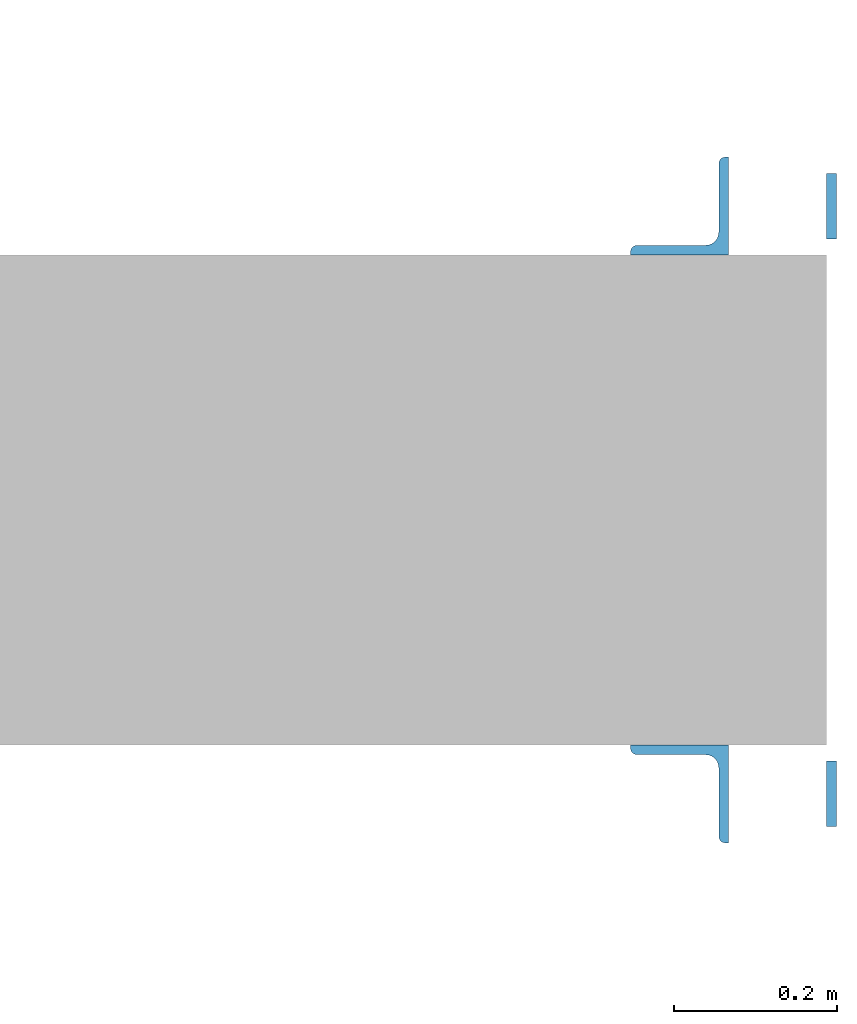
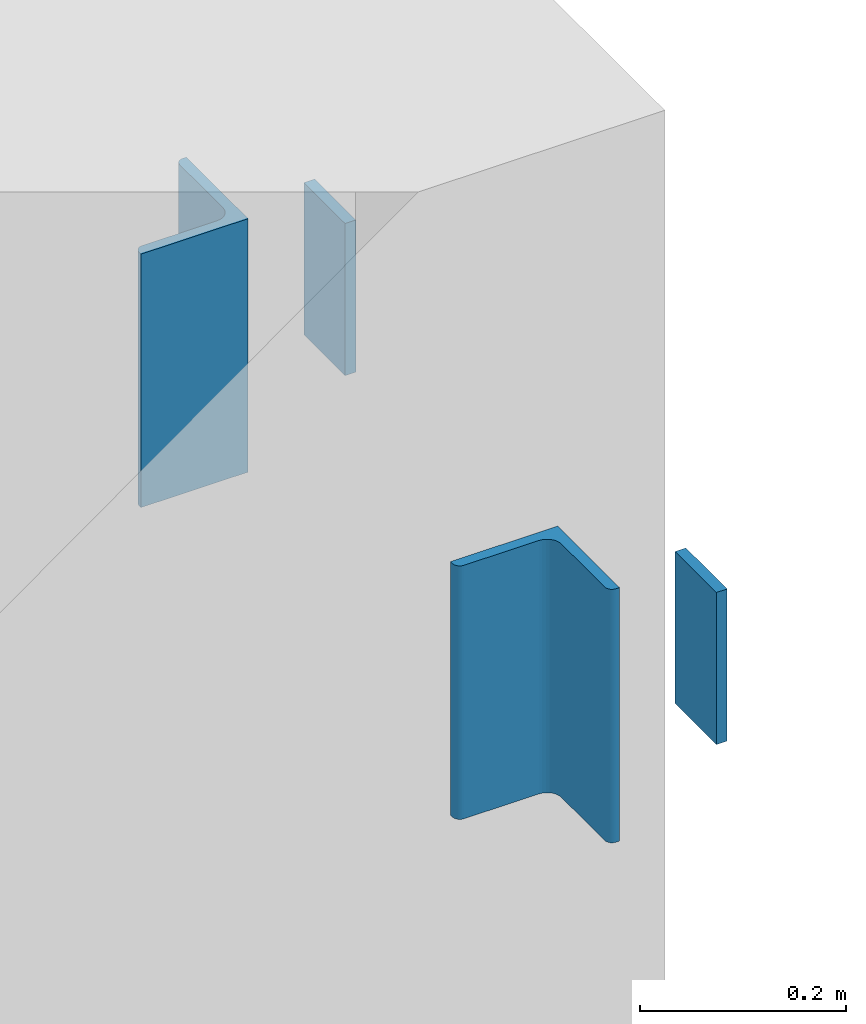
# One storey, part 11 of 22: 4 columns.
"""IFC2X3 building model written with IfcOpenShell, lengths in millimetres."""

import ifcopenshell
import ifcopenshell.guid

model = None  # the IFC model being written
_history = None  # IfcOwnerHistory: only IFC2X3 demands one
_inside = {}  # id of a spatial element -> (the spatial element, [elements in it])
_under = {}  # id of a project, library or spatial element -> (it, [spatial elements below it])
_declared = {}  # id of a project -> (the project, [libraries it declares])
_typed = {}  # id of a type object -> (the type object, [elements of that type])
_made_of = {}  # id of a material, layer set ... -> (it, [elements and type objects made of it])


def new_model(schema):
    """Start an empty IFC model of exactly this schema.

    Asked for "IFC4X3", IfcOpenShell would pick the latest addendum, in which some entities
    have other attributes; the version numbers below select the first issue.
    IFC2X3 requires an IfcOwnerHistory on every rooted entity: one is made here for all.
    """
    global model, _history
    if schema == "IFC4X3":
        model = ifcopenshell.file(schema_version=(4, 3, 0, 0))
    else:
        model = ifcopenshell.file(schema=schema)
    _inside.clear()
    _under.clear()
    _declared.clear()
    _typed.clear()
    _made_of.clear()
    _history = None
    if model.schema == "IFC2X3":
        org = make("IfcOrganization", Name="unknown")
        user = make(
            "IfcPersonAndOrganization",
            ThePerson=make("IfcPerson", FamilyName="unknown"),
            TheOrganization=org,
        )
        app = make(
            "IfcApplication",
            ApplicationDeveloper=org,
            Version="unknown",
            ApplicationFullName="unknown",
            ApplicationIdentifier="unknown",
        )
        _history = make(
            "IfcOwnerHistory",
            OwningUser=user,
            OwningApplication=app,
            ChangeAction="ADDED",
            CreationDate=0,
        )
    return model


def make(cls, **values):
    """One entity of the class cls with the attributes given. An attribute that is None is left unset."""
    return model.create_entity(
        cls, **{name: value for name, value in values.items() if value is not None}
    )


def entity(cls, *values):
    """Any entity or typed value of the class cls, its attributes in the order of the schema. None: left unset."""
    e = model.create_entity(cls)
    for i, value in enumerate(values):
        if value is not None:
            e[i] = value
    return e


def rooted(cls, **values):
    """An entity with a GlobalId (a new one), such as an element, a storey or a relation."""
    return make(cls, GlobalId=ifcopenshell.guid.new(), OwnerHistory=_history, **values)


def si_unit(unit_type, name, prefix=None):
    """IfcSIUnit, for example si_unit("LENGTHUNIT", "METRE", prefix="MILLI")."""
    return make("IfcSIUnit", UnitType=unit_type, Prefix=prefix, Name=name)


def converted_unit(unit_type, name, factor, base, dimensions=None, offset=None):
    """IfcConversionBasedUnit, such as the inch: factor (a typed value) times the base unit."""
    return make(
        "IfcConversionBasedUnit"
        if offset is None
        else "IfcConversionBasedUnitWithOffset",
        ConversionOffset=offset,
        Dimensions=None
        if dimensions is None
        else entity("IfcDimensionalExponents", *dimensions),
        UnitType=unit_type,
        Name=name,
        ConversionFactor=make(
            "IfcMeasureWithUnit", ValueComponent=factor, UnitComponent=base
        ),
    )


def derived_unit(unit_type, elements):
    """IfcDerivedUnit: a product of units, each with its exponent."""
    return make(
        "IfcDerivedUnit",
        Elements=[
            make("IfcDerivedUnitElement", Unit=unit, Exponent=power)
            for unit, power in elements
        ],
        UnitType=unit_type,
    )


def assignment(units):
    """IfcUnitAssignment: the units of a project."""
    return None if units is None else make("IfcUnitAssignment", Units=units)


def point(xyz):
    """IfcCartesianPoint."""
    return None if xyz is None else make("IfcCartesianPoint", Coordinates=xyz)


def direction(xyz):
    """IfcDirection."""
    return None if xyz is None else make("IfcDirection", DirectionRatios=xyz)


def frame(location, z_axis=None, x_axis=None):
    """IfcAxis2Placement3D, a coordinate frame: its origin and axes. An axis left out is left unset."""
    return make(
        "IfcAxis2Placement3D",
        Location=point(location),
        Axis=direction(z_axis),
        RefDirection=direction(x_axis),
    )


def frame_2d(location, x_axis=None):
    """IfcAxis2Placement2D, a coordinate frame in the plane: its origin and x axis."""
    return make(
        "IfcAxis2Placement2D", Location=point(location), RefDirection=direction(x_axis)
    )


def origin():
    """The frame at (0, 0, 0) with its axes left unset."""
    return frame((0.0, 0.0, 0.0))


def place(relative_to, where):
    """IfcLocalPlacement: puts the frame where relative to a parent placement (None: the world)."""
    return make(
        "IfcLocalPlacement", PlacementRelTo=relative_to, RelativePlacement=where
    )


def context(
    kind, dimensions, precision=None, world=None, true_north=None, identifier=None
):
    """IfcGeometricRepresentationContext, for example the 3D "Model" context."""
    return make(
        "IfcGeometricRepresentationContext",
        ContextIdentifier=identifier,
        ContextType=kind,
        CoordinateSpaceDimension=dimensions,
        Precision=precision,
        WorldCoordinateSystem=world,
        TrueNorth=true_north,
    )


def subcontext(parent, identifier, kind, view, scale=None):
    """IfcGeometricRepresentationSubContext, for example "Body" below "Model"."""
    return make(
        "IfcGeometricRepresentationSubContext",
        ContextIdentifier=identifier,
        ContextType=kind,
        ParentContext=parent,
        TargetScale=scale,
        TargetView=view,
    )


def project(units=None, contexts=None):
    """IfcProject with its units and contexts."""
    return rooted(
        "IfcProject",
        Name="project",
        RepresentationContexts=contexts,
        UnitsInContext=assignment(units),
    )


def spatial(cls, under=None, at=None, **own):
    """A site, building, storey or space (cls), placed at a placement, below another one or the project."""
    s = rooted(cls, ObjectPlacement=at, **own)
    if under is not None:
        _under.setdefault(under.id(), (under, []))[1].append(s)
    return s


def polyline(points):
    """IfcPolyline through the points."""
    return make("IfcPolyline", Points=[point(p) for p in points])


def circle_curve(where, radius):
    """IfcCircle in the frame where."""
    return make("IfcCircle", Position=where, Radius=radius)


def parameter(value):
    """IfcParameterValue: where a trimmed curve begins or ends, as a parameter of its basis curve."""
    return model.create_entity("IfcParameterValue", value)


def trimmed(basis, trim1, trim2, sense, master):
    """IfcTrimmedCurve: the piece of a basis curve between two trims."""
    return make(
        "IfcTrimmedCurve",
        BasisCurve=basis,
        Trim1=trim1,
        Trim2=trim2,
        SenseAgreement=sense,
        MasterRepresentation=master,
    )


def segment(curve, same_sense, transition):
    """IfcCompositeCurveSegment."""
    return make(
        "IfcCompositeCurveSegment",
        Transition=transition,
        SameSense=same_sense,
        ParentCurve=curve,
    )


def composite_curve(segments, self_intersect=None):
    """IfcCompositeCurve: segments joined end to end."""
    return make("IfcCompositeCurve", Segments=segments, SelfIntersect=self_intersect)


def profile(cls, at=None, kind="AREA", **sizes):
    """A parametric profile (cls). Its sizes go by their IFC names, for example OverallWidth=200.0."""
    return make(cls, ProfileType=kind, Position=at, **sizes)


def rectangle(**sizes):
    """IfcRectangleProfileDef."""
    return profile("IfcRectangleProfileDef", **sizes)


def outline(outer, holes=None, kind="AREA"):
    """IfcArbitraryClosedProfileDef: a profile drawn as a closed curve; with holes, ...WithVoids."""
    if holes is None:
        return make("IfcArbitraryClosedProfileDef", ProfileType=kind, OuterCurve=outer)
    return make(
        "IfcArbitraryProfileDefWithVoids",
        ProfileType=kind,
        OuterCurve=outer,
        InnerCurves=holes,
    )


def extrude(swept, where, along, depth):
    """IfcExtrudedAreaSolid: the profile swept, set in the frame where, extruded along a direction by depth."""
    return make(
        "IfcExtrudedAreaSolid",
        SweptArea=swept,
        Position=where,
        ExtrudedDirection=direction(along),
        Depth=depth,
    )


def shape(context_of_items, identifier, shape_type, items):
    """IfcShapeRepresentation: the items that make up one representation, for example the "Body"."""
    return make(
        "IfcShapeRepresentation",
        ContextOfItems=context_of_items,
        RepresentationIdentifier=identifier,
        RepresentationType=shape_type,
        Items=items,
    )


def source(mapping_origin, context_of_items, identifier, shape_type, items):
    """IfcRepresentationMap: a shape defined once, which mapped items show again and again."""
    return make(
        "IfcRepresentationMap",
        MappingOrigin=mapping_origin,
        MappedRepresentation=shape(context_of_items, identifier, shape_type, items),
    )


def transform(
    local_origin,
    x_axis=None,
    y_axis=None,
    z_axis=None,
    scale=None,
    scale2=None,
    scale3=None,
    uniform=True,
):
    """IfcCartesianTransformationOperator3D, or its non-uniform kind. x_axis, y_axis, z_axis: its Axis1, 2, 3."""
    if uniform:
        return make(
            "IfcCartesianTransformationOperator3D",
            Axis1=direction(x_axis),
            Axis2=direction(y_axis),
            LocalOrigin=point(local_origin),
            Scale=scale,
            Axis3=direction(z_axis),
        )
    return make(
        "IfcCartesianTransformationOperator3DnonUniform",
        Axis1=direction(x_axis),
        Axis2=direction(y_axis),
        LocalOrigin=point(local_origin),
        Scale=scale,
        Axis3=direction(z_axis),
        Scale2=scale2,
        Scale3=scale3,
    )


def mapped(mapping_source, mapping_target):
    """IfcMappedItem: shows the shape of a source again, moved by a transform."""
    return make(
        "IfcMappedItem", MappingSource=mapping_source, MappingTarget=mapping_target
    )


def material(Name=None, Category=None):
    """IfcMaterial."""
    return make("IfcMaterial", Name=Name, Category=Category)


def made_of(thing, what):
    """Note that an element or type object is made of a material, layer set ...; save() writes the relation."""
    if what is not None:
        _made_of.setdefault(what.id(), (what, []))[1].append(thing)
    return thing


def type_object(cls, material=None, **own):
    """A type object (cls), such as IfcWallType, which elements share."""
    return made_of(rooted(cls, **own), material)


def type_shapes(of_type, sources):
    """Give a type object the sources (RepresentationMaps) that its elements show as mapped items."""
    of_type.RepresentationMaps = sources


def element(
    cls,
    number,
    at=None,
    inside=None,
    cuts=None,
    type_object=None,
    material=None,
    context=None,
    identifier="Body",
    shape_type=None,
    held_by="IfcProductDefinitionShape",
    body=None,
    shapes=None,
    **own,
):
    """One element of the class cls, such as IfcWall. Its Tag is "e" and its number.

    at: its placement. inside: the storey or other place that contains it. cuts: it is an
    opening in that element (IfcRelVoidsElement). A single representation is given by context,
    identifier, shape_type and body (its items); several are given by shapes. held_by: the class
    of the entity that holds the representations. save() writes the other relations.
    """
    e = rooted(cls, Tag="e%d" % number, ObjectPlacement=at, **own)
    if body is not None:
        shapes = [shape(context, identifier, shape_type, body)]
    if shapes is not None:
        e.Representation = make(held_by, Representations=shapes)
    if inside is not None:
        _inside.setdefault(inside.id(), (inside, []))[1].append(e)
    if cuts is not None:
        rooted(
            "IfcRelVoidsElement", RelatingBuildingElement=cuts, RelatedOpeningElement=e
        )
    if type_object is not None:
        _typed.setdefault(type_object.id(), (type_object, []))[1].append(e)
    return made_of(e, material)


def aggregate(whole, parts):
    """IfcRelAggregates: a whole, such as a stair, and the parts it consists of."""
    return rooted("IfcRelAggregates", RelatingObject=whole, RelatedObjects=parts)


def save(model, path):
    """Write the relations noted so far, then the file.

    IfcRelAggregates (storeys below a building ...), IfcRelContainedInSpatialStructure (elements
    in a storey), IfcRelDefinesByType, IfcRelAssociatesMaterial and IfcRelDeclares: one each for
    every whole, place, type object, material and project.
    """
    for whole, parts in _under.values():
        aggregate(whole, parts)
    for where, things in _inside.values():
        rooted(
            "IfcRelContainedInSpatialStructure",
            RelatedElements=things,
            RelatingStructure=where,
        )
    for kind, things in _typed.values():
        rooted("IfcRelDefinesByType", RelatedObjects=things, RelatingType=kind)
    for what, things in _made_of.values():
        rooted("IfcRelAssociatesMaterial", RelatedObjects=things, RelatingMaterial=what)
    for by, libraries in _declared.values():
        rooted("IfcRelDeclares", RelatingContext=by, RelatedDefinitions=libraries)
    model.write(path)


model = new_model("IFC2X3")

# Units and contexts
model_context = context("Model", 3, precision=0.01, world=origin(), true_north=direction((6.12303176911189e-17, 1.0)))
body_context = subcontext(model_context, "Body", "Model", "MODEL_VIEW")
ifc_project = project(units=[si_unit("LENGTHUNIT", "METRE", prefix="MILLI"), si_unit("AREAUNIT", "SQUARE_METRE"), si_unit("VOLUMEUNIT", "CUBIC_METRE"), converted_unit("PLANEANGLEUNIT", "DEGREE", entity("IfcRatioMeasure", 0.0174532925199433), si_unit("PLANEANGLEUNIT", "RADIAN"), dimensions=[0, 0, 0, 0, 0, 0, 0]), si_unit("MASSUNIT", "GRAM", prefix="KILO"), derived_unit("MASSDENSITYUNIT", [(si_unit("MASSUNIT", "GRAM", prefix="KILO"), 1), (si_unit("LENGTHUNIT", "METRE"), -3)]), si_unit("TIMEUNIT", "SECOND"), si_unit("FREQUENCYUNIT", "HERTZ"), si_unit("THERMODYNAMICTEMPERATUREUNIT", "DEGREE_CELSIUS"), derived_unit("THERMALTRANSMITTANCEUNIT", [(si_unit("MASSUNIT", "GRAM", prefix="KILO"), 1), (si_unit("THERMODYNAMICTEMPERATUREUNIT", "KELVIN"), -1), (si_unit("TIMEUNIT", "SECOND"), -3)]), derived_unit("VOLUMETRICFLOWRATEUNIT", [(si_unit("LENGTHUNIT", "METRE"), 3), (si_unit("TIMEUNIT", "SECOND"), -1)]), si_unit("ELECTRICCURRENTUNIT", "AMPERE"), si_unit("ELECTRICVOLTAGEUNIT", "VOLT"), si_unit("POWERUNIT", "WATT"), si_unit("FORCEUNIT", "NEWTON", prefix="KILO"), si_unit("ILLUMINANCEUNIT", "LUX"), si_unit("LUMINOUSFLUXUNIT", "LUMEN"), si_unit("LUMINOUSINTENSITYUNIT", "CANDELA"), derived_unit("USERDEFINED", [(si_unit("MASSUNIT", "GRAM", prefix="KILO"), -1), (si_unit("LENGTHUNIT", "METRE"), -2), (si_unit("TIMEUNIT", "SECOND"), 3), (si_unit("LUMINOUSFLUXUNIT", "LUMEN"), 1)]), derived_unit("LINEARVELOCITYUNIT", [(si_unit("LENGTHUNIT", "METRE"), 1), (si_unit("TIMEUNIT", "SECOND"), -1)]), si_unit("PRESSUREUNIT", "PASCAL"), derived_unit("USERDEFINED", [(si_unit("LENGTHUNIT", "METRE"), -2), (si_unit("MASSUNIT", "GRAM", prefix="KILO"), 1), (si_unit("TIMEUNIT", "SECOND"), -2)])], contexts=[model_context])

# Site, building, storey
site_placement = place(None, origin())
site = spatial("IfcSite", under=ifc_project, at=site_placement, Name="Default", CompositionType="ELEMENT")
building_placement = place(site_placement, origin())
building = spatial("IfcBuilding", under=site, at=building_placement, Name="niet gebruiken", CompositionType="ELEMENT")
storey_placement = place(building_placement, frame((0.0, 0.0, 15000.0)))
storey = spatial("IfcBuildingStorey", under=building, at=storey_placement, Name="04 vierde verdieping", CompositionType="ELEMENT", Elevation=15000.0)

# Columns
ifc_material = material(Name="NLRS_h2_staal")
column_type_1 = type_object("IfcColumnType", Name="kolomgelijzijdig hoekprofiel LEQU_120x120x12_!", PredefinedType="COLUMN", material=ifc_material)
shared_shape_1 = source(origin(), body_context, "Body", "SweptSolid", [
    extrude(outline(composite_curve([segment(polyline([(-74.6666666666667, -45.3333333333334), (45.3333333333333, -45.3333333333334)]), True, "CONTINUOUS"), segment(polyline([(45.3333333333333, -45.3333333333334), (45.3333333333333, 74.6666666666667)]), True, "CONTINUOUS"), segment(polyline([(45.3333333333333, 74.6666666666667), (41.3333333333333, 74.6666666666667)]), True, "CONTINUOUS"), segment(trimmed(circle_curve(frame_2d((41.3333333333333, 66.6666666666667), x_axis=(0.0, 1.0)), 8.0), [parameter(0.0)], [parameter(90.0)], True, "PARAMETER"), True, "CONTINUOUS"), segment(polyline([(33.3333333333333, 66.6666666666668), (33.3333333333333, -17.3333333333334)]), True, "CONTINUOUS"), segment(trimmed(circle_curve(frame_2d((17.3333333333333, -17.3333333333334), x_axis=(1.0, 0.0)), 16.0), [parameter(270.0)], [parameter(0.0)], True, "PARAMETER"), False, "CONTINUOUS"), segment(polyline([(17.3333333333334, -33.3333333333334), (-66.6666666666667, -33.3333333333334)]), True, "CONTINUOUS"), segment(trimmed(circle_curve(frame_2d((-66.6666666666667, -41.3333333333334), x_axis=(0.0, 1.0)), 7.99999999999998), [parameter(0.0)], [parameter(90.0000000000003)], True, "PARAMETER"), True, "CONTINUOUS"), segment(polyline([(-74.6666666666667, -41.3333333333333), (-74.6666666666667, -45.3333333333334)]), True, "CONTINUOUS")], self_intersect=False)), frame((32.8333333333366, 32.8333333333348, 16235.0), z_axis=(0.0, 0.0, 1.0), x_axis=(0.0, -1.0, 0.0)), (0.0, 0.0, 1.0), 300.00000000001),
])
type_shapes(column_type_1, [shared_shape_1])
column_1_placement = place(storey_placement, frame((158667.5, 31587.4999999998, -15000.0), z_axis=(0.0, 0.0, 1.0), x_axis=(-1.0, 0.0, 0.0)))
element("IfcColumn", 1, at=column_1_placement, inside=storey, type_object=column_type_1, material=ifc_material, Name="NLRS_28.11_SCO_TLB_stalen kolom hoekprofiel gelijkzijdig_gen:kolomgelijzijdig hoekprofiel LEQU_120x120x12_!", ObjectType="kolomgelijzijdig hoekprofiel LEQU_120x120x12_!", context=body_context, shape_type="MappedRepresentation", body=[
    mapped(shared_shape_1, transform((0.0, 0.0, 0.0), scale=1.0)),
])
column_type_2 = type_object("IfcColumnType", Name="kolomgelijzijdig hoekprofiel LEQU_120x120x12_!", PredefinedType="COLUMN", material=ifc_material)
shared_shape_2 = source(origin(), body_context, "Body", "SweptSolid", [
    extrude(outline(composite_curve([segment(polyline([(-45.3333333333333, -45.3333333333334), (74.6666666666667, -45.3333333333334)]), True, "CONTINUOUS"), segment(polyline([(74.6666666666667, -45.3333333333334), (74.6666666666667, -41.3333333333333)]), True, "CONTINUOUS"), segment(trimmed(circle_curve(frame_2d((66.6666666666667, -41.3333333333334), x_axis=(1.0, 0.0)), 7.99999999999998), [parameter(0.0)], [parameter(90.0000000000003)], True, "PARAMETER"), True, "CONTINUOUS"), segment(polyline([(66.6666666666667, -33.3333333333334), (-17.3333333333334, -33.3333333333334)]), True, "CONTINUOUS"), segment(trimmed(circle_curve(frame_2d((-17.3333333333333, -17.3333333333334), x_axis=(0.0, -1.0)), 16.0), [parameter(270.0)], [parameter(0.0)], True, "PARAMETER"), False, "CONTINUOUS"), segment(polyline([(-33.3333333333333, -17.3333333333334), (-33.3333333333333, 66.6666666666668)]), True, "CONTINUOUS"), segment(trimmed(circle_curve(frame_2d((-41.3333333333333, 66.6666666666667), x_axis=(1.0, 0.0)), 8.0), [parameter(0.0)], [parameter(90.0)], True, "PARAMETER"), True, "CONTINUOUS"), segment(polyline([(-41.3333333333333, 74.6666666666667), (-45.3333333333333, 74.6666666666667)]), True, "CONTINUOUS"), segment(polyline([(-45.3333333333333, 74.6666666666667), (-45.3333333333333, -45.3333333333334)]), True, "CONTINUOUS")], self_intersect=False)), frame((32.8333333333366, -32.8333333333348, 16235.0), z_axis=(0.0, 0.0, 1.0), x_axis=(0.0, -1.0, 0.0)), (0.0, 0.0, 1.0), 300.00000000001),
])
type_shapes(column_type_2, [shared_shape_2])
column_2_placement = place(storey_placement, frame((158667.5, 32212.5, -15000.0), z_axis=(0.0, 0.0, 1.0), x_axis=(-1.0, 0.0, 0.0)))
element("IfcColumn", 2, at=column_2_placement, inside=storey, type_object=column_type_2, material=ifc_material, Name="NLRS_28.11_SCO_TLB_stalen kolom hoekprofiel gelijkzijdig_gen:kolomgelijzijdig hoekprofiel LEQU_120x120x12_!", ObjectType="kolomgelijzijdig hoekprofiel LEQU_120x120x12_!", context=body_context, shape_type="MappedRepresentation", body=[
    mapped(shared_shape_2, transform((0.0, 0.0, 0.0), scale=1.0)),
])
column_type_3 = type_object("IfcColumnType", Name="kolom stripstaal RECT_80x12", PredefinedType="COLUMN", material=ifc_material)
shared_shape_3 = source(origin(), body_context, "Body", "SweptSolid", [
    extrude(rectangle(XDim=79.9999999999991, YDim=11.9999999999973, at=frame_2d((-2.16715534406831e-12, 0.0), x_axis=(1.0, 0.0))), frame((158806.0, 32260.0, 16295.0), z_axis=(0.0, 0.0, 1.0), x_axis=(0.0, -1.0, 0.0)), (0.0, 0.0, 1.0), 180.000000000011),
])
type_shapes(column_type_3, [shared_shape_3])
column_3_placement = place(storey_placement, frame((0.0, 0.0, -15000.0)))
element("IfcColumn", 3, at=column_3_placement, inside=storey, type_object=column_type_3, material=ifc_material, Name="NLRS_28.11_SCO_TLB_stalen kolom stripstaal_gen:kolom stripstaal RECT_80x12", ObjectType="kolom stripstaal RECT_80x12", context=body_context, shape_type="MappedRepresentation", body=[
    mapped(shared_shape_3, transform((0.0, 0.0, 0.0), scale=1.0)),
])
column_type_4 = type_object("IfcColumnType", Name="kolom stripstaal RECT_80x12", PredefinedType="COLUMN", material=ifc_material)
shared_shape_4 = source(origin(), body_context, "Body", "SweptSolid", [
    extrude(rectangle(XDim=80.0000000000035, YDim=12.0000000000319, at=frame_2d((2.16715534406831e-12, 0.0), x_axis=(1.0, 0.0))), frame((158806.0, 31540.0, 16295.0), z_axis=(0.0, 0.0, 1.0), x_axis=(0.0, -1.0, 0.0)), (0.0, 0.0, 1.0), 180.000000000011),
])
type_shapes(column_type_4, [shared_shape_4])
column_4_placement = place(storey_placement, frame((0.0, 0.0, -15000.0)))
element("IfcColumn", 4, at=column_4_placement, inside=storey, type_object=column_type_4, material=ifc_material, Name="NLRS_28.11_SCO_TLB_stalen kolom stripstaal_gen:kolom stripstaal RECT_80x12", ObjectType="kolom stripstaal RECT_80x12", context=body_context, shape_type="MappedRepresentation", body=[
    mapped(shared_shape_4, transform((0.0, 0.0, 0.0), scale=1.0)),
])

save(model, "model.ifc")
